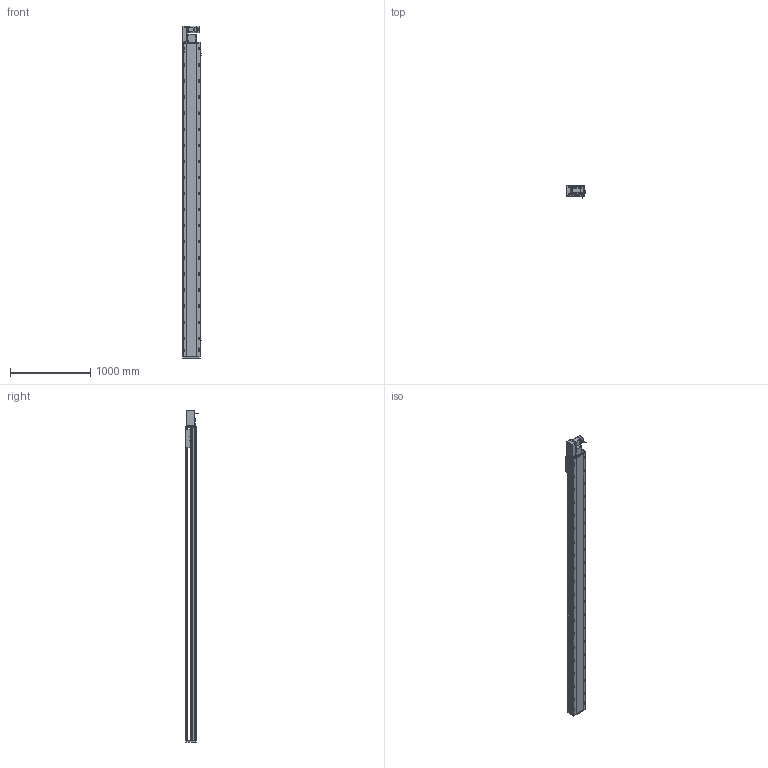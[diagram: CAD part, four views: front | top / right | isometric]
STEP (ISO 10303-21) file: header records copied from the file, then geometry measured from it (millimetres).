
FILE_DESCRIPTION (( 'STEP AP214' ), '1' );
FILE_NAME ('RTB22S-XX-3550-L-M75-C4.STEP', '2025-12-12T03:36:19', ( '' ), ( '' ), 'SwSTEP 2.0', 'SolidWorks 2018', '' );
FILE_SCHEMA (( 'AUTOMOTIVE_DESIGN' ));
Length unit declared in the file: millimetre
Products named in the file (14): RTH22-GY-013外置感应片^RTB22S-XX-XX-L-M75-C4; OMRON EE-SX672 传感器^RTB22S-XX-XX-L-M75-C4; RTB22S-L-004賑釱^RTB22S-XX-XX-L-M75-C4; 750W萇儂^RTB22S-XX-XX-L-M75-C4; RTB22S-L-011菁釱^RTB22S-XX-XX-L-M75-C4; RTB22S-GY-008-M75--萇儂啣^RTB22S-L-々湍釱蚾饜_RTB22S-XX-XX-L-M75-C4; RTB22S-GY-007奻裔^RTB22S-XX-XX-L-M75-C4; RTB22S-GY-005P^RTB22S-L-々湍釱蚾饜_RTB22S-XX-XX-L-M75-C4; RTB22S-XX-3550-L-M75-C4; RTB22S-GY-001耜裔^RTB22S-XX-XX-L-M75-C4; RTB22S-L-々湍釱蚾饜^RTB22S-XX-XX-L-M75-C4; RTB22S-GY-018P^RTB22S-L-々湍釱蚾饜_RTB22S-XX-XX-L-M75-C4; RTB22S-GY-017P^RTB22S-L-々湍釱蚾饜_RTB22S-XX-XX-L-M75-C4; RTB22S-GY-014--々湍釱^RTB22S-L-々湍釱蚾饜_RTB22S-XX-XX-L-M75-C4
Assembly tree (16 placements, depth 3):
  RTB22S-XX-3550-L-M75-C4
    RTB22S-L-011菁釱^RTB22S-XX-XX-L-M75-C4
    750W萇儂^RTB22S-XX-XX-L-M75-C4
    RTB22S-L-004賑釱^RTB22S-XX-XX-L-M75-C4
    OMRON EE-SX672 传感器^RTB22S-XX-XX-L-M75-C4  x3
    RTH22-GY-013外置感应片^RTB22S-XX-XX-L-M75-C4
    RTB22S-GY-007奻裔^RTB22S-XX-XX-L-M75-C4
    RTB22S-GY-001耜裔^RTB22S-XX-XX-L-M75-C4
    RTB22S-L-々湍釱蚾饜^RTB22S-XX-XX-L-M75-C4
      RTB22S-GY-014--々湍釱^RTB22S-L-々湍釱蚾饜_RTB22S-XX-XX-L-M75-C4
      RTB22S-GY-017P^RTB22S-L-々湍釱蚾饜_RTB22S-XX-XX-L-M75-C4  x2
      RTB22S-GY-005P^RTB22S-L-々湍釱蚾饜_RTB22S-XX-XX-L-M75-C4
      RTB22S-GY-008-M75--萇儂啣^RTB22S-L-々湍釱蚾饜_RTB22S-XX-XX-L-M75-C4
      RTB22S-GY-018P^RTB22S-L-々湍釱蚾饜_RTB22S-XX-XX-L-M75-C4
Bounding box: 238.5 x 162.7 x 4129 mm (x, y, z)
Volume: 50997572.5 mm3; surface area: 5186788.9 mm2
Topology: 15 solids, 15 shells, 2199 faces, 5986 edges, 3812 vertices
Faces by surface type: plane 939, cylinder 766, bspline 296, cone 186, sphere 8, torus 4
Entity records: 60664 total; most frequent: CARTESIAN_POINT 16948, ORIENTED_EDGE 8664, DIRECTION 8546, EDGE_CURVE 4332, AXIS2_PLACEMENT_3D 3094, VERTEX_POINT 2816, VECTOR 2358, LINE 2358
